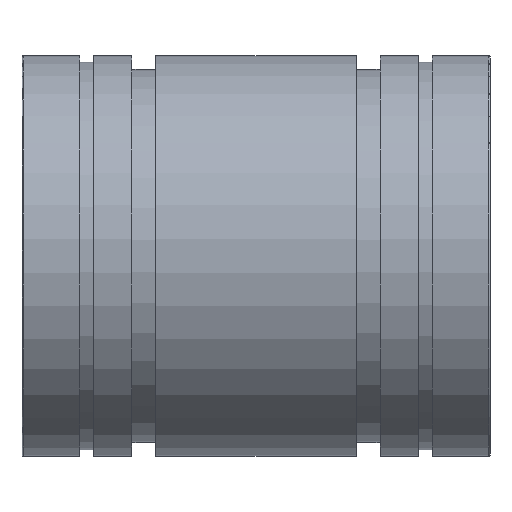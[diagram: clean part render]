
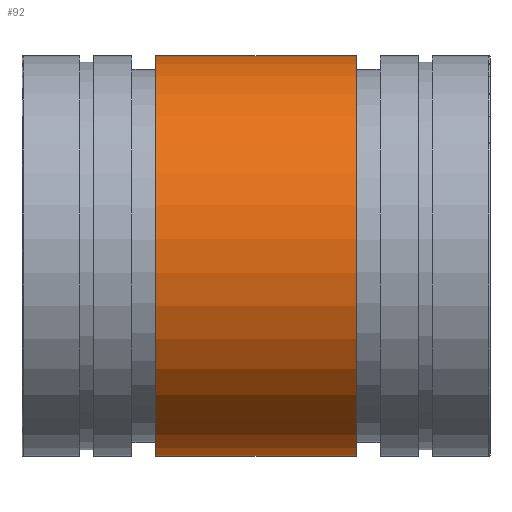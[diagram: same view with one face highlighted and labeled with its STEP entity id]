
A CAD part, top view. The second image highlights one B-rep face of the part: STEP entity #92.
In plain terms, the highlighted cylindrical face has radius 60 mm (diameter 120 mm), a partial arc.
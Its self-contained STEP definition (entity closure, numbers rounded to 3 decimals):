
#92=ADVANCED_FACE('',(#136),#137,.T.);
#136=FACE_OUTER_BOUND('',#188,.T.);
#137=CYLINDRICAL_SURFACE('',#189,60.0);
#188=EDGE_LOOP('',(#365,#366,#367,#368));
#189=AXIS2_PLACEMENT_3D('',#369,#370,#371);
#365=ORIENTED_EDGE('',*,*,#438,.F.);
#366=ORIENTED_EDGE('',*,*,#492,.F.);
#367=ORIENTED_EDGE('',*,*,#476,.F.);
#368=ORIENTED_EDGE('',*,*,#491,.T.);
#369=CARTESIAN_POINT('',(0.0,0.0,0.0));
#370=DIRECTION('',(1.0,-0.0,-0.0));
#371=DIRECTION('',(0.0,0.0,1.0));
#438=EDGE_CURVE('',#519,#521,#522,.F.);
#476=EDGE_CURVE('',#587,#589,#590,.T.);
#491=EDGE_CURVE('',#587,#521,#611,.T.);
#492=EDGE_CURVE('',#589,#519,#612,.T.);
#519=VERTEX_POINT('',#652);
#521=VERTEX_POINT('',#655);
#522=LINE('',#656,#657);
#587=VERTEX_POINT('',#778);
#589=VERTEX_POINT('',#781);
#590=LINE('',#782,#783);
#611=CIRCLE('',#811,60.0);
#612=CIRCLE('',#812,60.0);
#652=CARTESIAN_POINT('',(40.003,28.474,-52.813));
#655=CARTESIAN_POINT('',(99.998,28.474,-52.813));
#656=CARTESIAN_POINT('',(0.0,28.474,-52.813));
#657=VECTOR('',#829,1.0);
#778=CARTESIAN_POINT('',(99.998,-28.474,-52.813));
#781=CARTESIAN_POINT('',(40.003,-28.474,-52.813));
#782=CARTESIAN_POINT('',(0.0,-28.474,-52.813));
#783=VECTOR('',#876,1.0);
#811=AXIS2_PLACEMENT_3D('',#905,#906,#907);
#812=AXIS2_PLACEMENT_3D('',#908,#909,#910);
#829=DIRECTION('',(-1.0,0.0,0.0));
#876=DIRECTION('',(-1.0,0.0,0.0));
#905=CARTESIAN_POINT('',(99.998,0.0,0.0));
#906=DIRECTION('',(-1.0,0.0,0.0));
#907=DIRECTION('',(0.0,0.0,1.0));
#908=CARTESIAN_POINT('',(40.003,0.0,0.0));
#909=DIRECTION('',(-1.0,0.0,0.0));
#910=DIRECTION('',(0.0,0.0,1.0));
